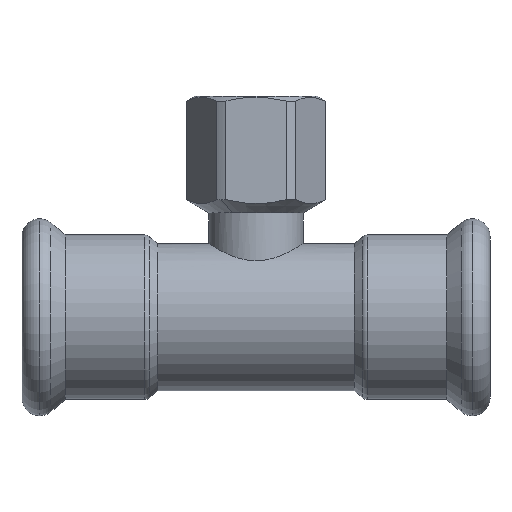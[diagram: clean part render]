
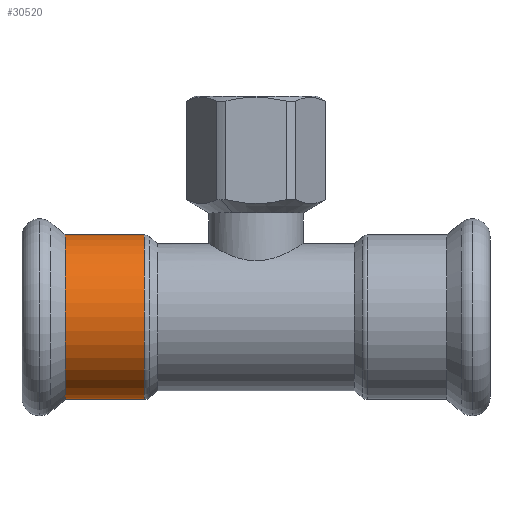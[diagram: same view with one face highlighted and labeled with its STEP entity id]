
A CAD part, top view. The second image highlights one B-rep face of the part: STEP entity #30520.
In plain terms, the highlighted cylindrical face has radius 15.65 mm (diameter 31.3 mm), a partial arc.
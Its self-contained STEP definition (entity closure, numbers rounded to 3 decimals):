
#540=CARTESIAN_POINT('',(-388.656,59.438,0.));
#550=VERTEX_POINT('',#540);
#730=CARTESIAN_POINT('',(-419.956,59.438,
0.));
#740=VERTEX_POINT('',#730);
#770=CARTESIAN_POINT('',(-404.306,59.438,0.));
#780=DIRECTION('',(0.,1.,0.));
#790=DIRECTION('',(-1.,0.,0.));
#800=AXIS2_PLACEMENT_3D('',#770,#780,#790);
#810=CIRCLE('',#800,15.65);
#870=CARTESIAN_POINT('',(-404.306,51.632,0.));
#880=DIRECTION('',(0.,-1.,0.));
#890=DIRECTION('',(-1.,0.,0.));
#900=AXIS2_PLACEMENT_3D('',#870,#880,#890);
#910=CYLINDRICAL_SURFACE('',#900,15.65);
#920=CARTESIAN_POINT('',(-388.656,51.632,
0.));
#930=DIRECTION('',(0.,-1.,0.));
#940=VECTOR('',#930,1.);
#950=LINE('',#920,#940);
#960=CARTESIAN_POINT('',(-388.656,44.386,0.));
#970=VERTEX_POINT('',#960);
#980=EDGE_CURVE('',#550,#970,#950,.T.);
#1010=CARTESIAN_POINT('',(-419.956,51.632,0.));
#1020=DIRECTION('',(0.,-1.,0.));
#1030=VECTOR('',#1020,1.);
#1040=LINE('',#1010,#1030);
#1050=CARTESIAN_POINT('',(-419.956,44.386,0.));
#1060=VERTEX_POINT('',#1050);
#1070=EDGE_CURVE('',#740,#1060,#1040,.T.);
#1090=CARTESIAN_POINT('',(-404.306,44.386,0.));
#1100=DIRECTION('',(0.,-1.,0.));
#1110=DIRECTION('',(-1.,0.,0.));
#1120=AXIS2_PLACEMENT_3D('',#1090,#1100,#1110);
#1130=CIRCLE('',#1120,15.65);
#30440=EDGE_CURVE('',#740,#550,#810,.T.);
#30450=ORIENTED_EDGE('',*,*,#30440,.F.);
#30460=ORIENTED_EDGE('',*,*,#980,.F.);
#30470=EDGE_CURVE('',#970,#1060,#1130,.T.);
#30480=ORIENTED_EDGE('',*,*,#30470,.F.);
#30490=ORIENTED_EDGE('',*,*,#1070,.T.);
#30500=EDGE_LOOP('',(#30490,#30480,#30460,#30450));
#30510=FACE_OUTER_BOUND('',#30500,.T.);
#30520=ADVANCED_FACE('',(#30510),#910,.T.);
